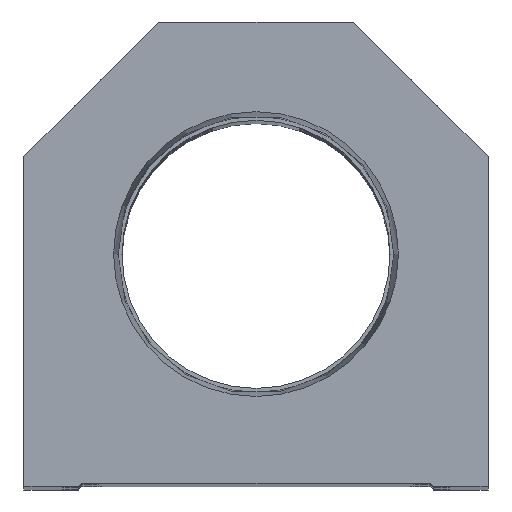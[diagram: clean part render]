
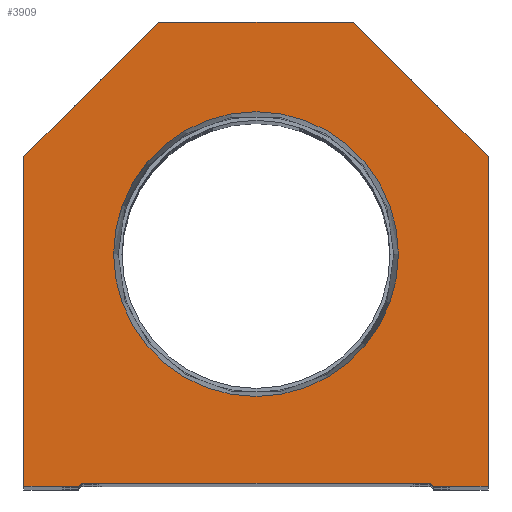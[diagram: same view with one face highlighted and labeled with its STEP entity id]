
A CAD part, top view. The second image highlights one B-rep face of the part: STEP entity #3909.
In plain terms, the highlighted planar face has unit normal (0, 0, 1).
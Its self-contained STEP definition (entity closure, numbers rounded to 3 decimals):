
#26 = ORIENTED_EDGE ( 'NONE', *, *, #944, .T. ) ;
#73 = VECTOR ( 'NONE', #3652, 1000. ) ;
#384 = VERTEX_POINT ( 'NONE', #3242 ) ;
#486 = CARTESIAN_POINT ( 'NONE',  ( -38.1, 0., 0. ) ) ;
#508 = EDGE_CURVE ( 'NONE', #1856, #20270, #2367, .T. ) ;
#745 = VECTOR ( 'NONE', #8471, 1000. ) ;
#798 = DIRECTION ( 'NONE',  ( 0., 0., 1. ) ) ;
#840 = CARTESIAN_POINT ( 'NONE',  ( 28.6, 0., 0. ) ) ;
#914 = EDGE_CURVE ( 'NONE', #1189, #6554, #20886, .T. ) ;
#944 = EDGE_CURVE ( 'NONE', #20270, #10354, #19498, .T. ) ;
#1056 = VECTOR ( 'NONE', #3979, 1000. ) ;
#1160 = DIRECTION ( 'NONE',  ( 0.707, -0.707, 0. ) ) ;
#1189 = VERTEX_POINT ( 'NONE', #11328 ) ;
#1734 = CARTESIAN_POINT ( 'NONE',  ( 38.1, 0., 0. ) ) ;
#1849 = ORIENTED_EDGE ( 'NONE', *, *, #14693, .T. ) ;
#1856 = VERTEX_POINT ( 'NONE', #5715 ) ;
#2309 = ORIENTED_EDGE ( 'NONE', *, *, #8432, .T. ) ;
#2367 = LINE ( 'NONE', #840, #1056 ) ;
#2647 = EDGE_CURVE ( 'NONE', #12832, #1189, #12008, .T. ) ;
#2666 = ORIENTED_EDGE ( 'NONE', *, *, #914, .T. ) ;
#2811 = CARTESIAN_POINT ( 'NONE',  ( 23.374, 38.1, 0. ) ) ;
#3027 = CIRCLE ( 'NONE', #20395, 23.374 ) ;
#3028 = VECTOR ( 'NONE', #3790, 1000. ) ;
#3153 = ORIENTED_EDGE ( 'NONE', *, *, #6171, .F. ) ;
#3242 = CARTESIAN_POINT ( 'NONE',  ( -16., 76.2, 0. ) ) ;
#3360 = VECTOR ( 'NONE', #1160, 1000. ) ;
#3393 = VERTEX_POINT ( 'NONE', #12829 ) ;
#3612 = DIRECTION ( 'NONE',  ( 1., 0., 0. ) ) ;
#3615 = DIRECTION ( 'NONE',  ( 1., 0., 0. ) ) ;
#3652 = DIRECTION ( 'NONE',  ( 1., 0., 0. ) ) ;
#3741 = PLANE ( 'NONE',  #7345 ) ;
#3749 = LINE ( 'NONE', #6917, #5079 ) ;
#3790 = DIRECTION ( 'NONE',  ( 0.707, 0.707, 0. ) ) ;
#3909 = ADVANCED_FACE ( 'NONE', ( #10098, #13537 ), #3741, .T. ) ;
#3979 = DIRECTION ( 'NONE',  ( 1., 0., 0. ) ) ;
#4340 = CARTESIAN_POINT ( 'NONE',  ( -23.374, 38.1, 0. ) ) ;
#4447 = DIRECTION ( 'NONE',  ( 1., 0., 0. ) ) ;
#5079 = VECTOR ( 'NONE', #10201, 1000. ) ;
#5137 = LINE ( 'NONE', #18138, #73 ) ;
#5204 = ORIENTED_EDGE ( 'NONE', *, *, #2647, .T. ) ;
#5674 = EDGE_CURVE ( 'NONE', #3393, #1856, #20610, .T. ) ;
#5715 = CARTESIAN_POINT ( 'NONE',  ( 29.1, 0., 0. ) ) ;
#5936 = EDGE_CURVE ( 'NONE', #15160, #384, #3749, .T. ) ;
#6171 = EDGE_CURVE ( 'NONE', #20089, #8625, #3027, .T. ) ;
#6508 = EDGE_CURVE ( 'NONE', #8625, #20089, #18028, .T. ) ;
#6554 = VERTEX_POINT ( 'NONE', #16520 ) ;
#6583 = ORIENTED_EDGE ( 'NONE', *, *, #5674, .T. ) ;
#6917 = CARTESIAN_POINT ( 'NONE',  ( 16., 76.2, 0. ) ) ;
#7345 = AXIS2_PLACEMENT_3D ( 'NONE', #20063, #798, #8818 ) ;
#7580 = ORIENTED_EDGE ( 'NONE', *, *, #18107, .T. ) ;
#7862 = EDGE_CURVE ( 'NONE', #384, #12832, #16622, .T. ) ;
#8163 = EDGE_LOOP ( 'NONE', ( #2666, #1849, #7580, #6583, #12906, #26, #2309, #16981, #18175, #5204 ) ) ;
#8432 = EDGE_CURVE ( 'NONE', #10354, #15160, #16243, .T. ) ;
#8471 = DIRECTION ( 'NONE',  ( -0.707, -0.707, 0. ) ) ;
#8547 = ORIENTED_EDGE ( 'NONE', *, *, #6508, .F. ) ;
#8625 = VERTEX_POINT ( 'NONE', #2811 ) ;
#8818 = DIRECTION ( 'NONE',  ( 1., 0., 0. ) ) ;
#9857 = DIRECTION ( 'NONE',  ( 0., 0., 1. ) ) ;
#10098 = FACE_BOUND ( 'NONE', #12004, .T. ) ;
#10201 = DIRECTION ( 'NONE',  ( -1., 0., 0. ) ) ;
#10354 = VERTEX_POINT ( 'NONE', #20919 ) ;
#10726 = CARTESIAN_POINT ( 'NONE',  ( -28.6, 0.5, 0. ) ) ;
#11052 = VECTOR ( 'NONE', #13524, 1000. ) ;
#11314 = VECTOR ( 'NONE', #16094, 1000. ) ;
#11328 = CARTESIAN_POINT ( 'NONE',  ( -38.1, 0., 0. ) ) ;
#11657 = LINE ( 'NONE', #18500, #3028 ) ;
#11802 = CARTESIAN_POINT ( 'NONE',  ( 0., 38.1, 0. ) ) ;
#12004 = EDGE_LOOP ( 'NONE', ( #8547, #3153 ) ) ;
#12008 = LINE ( 'NONE', #486, #11052 ) ;
#12548 = CARTESIAN_POINT ( 'NONE',  ( -28.6, 0., 0. ) ) ;
#12829 = CARTESIAN_POINT ( 'NONE',  ( 28.6, 0.5, 0. ) ) ;
#12832 = VERTEX_POINT ( 'NONE', #16299 ) ;
#12906 = ORIENTED_EDGE ( 'NONE', *, *, #508, .T. ) ;
#13524 = DIRECTION ( 'NONE',  ( 0., -1., 0. ) ) ;
#13537 = FACE_OUTER_BOUND ( 'NONE', #8163, .T. ) ;
#14634 = CARTESIAN_POINT ( 'NONE',  ( 16., 76.2, 0. ) ) ;
#14693 = EDGE_CURVE ( 'NONE', #6554, #15373, #11657, .T. ) ;
#15085 = VECTOR ( 'NONE', #4447, 1000. ) ;
#15160 = VERTEX_POINT ( 'NONE', #14634 ) ;
#15332 = CARTESIAN_POINT ( 'NONE',  ( -38.1, 54.1, 0. ) ) ;
#15373 = VERTEX_POINT ( 'NONE', #10726 ) ;
#16094 = DIRECTION ( 'NONE',  ( 0., 1., 0. ) ) ;
#16243 = LINE ( 'NONE', #21124, #18849 ) ;
#16299 = CARTESIAN_POINT ( 'NONE',  ( -38.1, 54.1, 0. ) ) ;
#16520 = CARTESIAN_POINT ( 'NONE',  ( -29.1, 0., 0. ) ) ;
#16622 = LINE ( 'NONE', #15332, #745 ) ;
#16632 = CARTESIAN_POINT ( 'NONE',  ( 0., 38.1, 0. ) ) ;
#16678 = AXIS2_PLACEMENT_3D ( 'NONE', #11802, #9857, #3612 ) ;
#16981 = ORIENTED_EDGE ( 'NONE', *, *, #5936, .T. ) ;
#17414 = CARTESIAN_POINT ( 'NONE',  ( 14.55, 14.55, 0. ) ) ;
#17718 = DIRECTION ( 'NONE',  ( -0.707, 0.707, 0. ) ) ;
#18028 = CIRCLE ( 'NONE', #16678, 23.374 ) ;
#18107 = EDGE_CURVE ( 'NONE', #15373, #3393, #5137, .T. ) ;
#18138 = CARTESIAN_POINT ( 'NONE',  ( -28.6, 0.5, 0. ) ) ;
#18175 = ORIENTED_EDGE ( 'NONE', *, *, #7862, .T. ) ;
#18500 = CARTESIAN_POINT ( 'NONE',  ( -14.55, 14.55, 0. ) ) ;
#18849 = VECTOR ( 'NONE', #17718, 1000. ) ;
#19498 = LINE ( 'NONE', #20987, #11314 ) ;
#19836 = DIRECTION ( 'NONE',  ( 0., 0., 1. ) ) ;
#20063 = CARTESIAN_POINT ( 'NONE',  ( 0., 0., 0. ) ) ;
#20089 = VERTEX_POINT ( 'NONE', #4340 ) ;
#20270 = VERTEX_POINT ( 'NONE', #1734 ) ;
#20395 = AXIS2_PLACEMENT_3D ( 'NONE', #16632, #19836, #3615 ) ;
#20610 = LINE ( 'NONE', #17414, #3360 ) ;
#20886 = LINE ( 'NONE', #12548, #15085 ) ;
#20919 = CARTESIAN_POINT ( 'NONE',  ( 38.1, 54.1, 0. ) ) ;
#20987 = CARTESIAN_POINT ( 'NONE',  ( 38.1, 0., 0. ) ) ;
#21124 = CARTESIAN_POINT ( 'NONE',  ( 38.1, 54.1, 0. ) ) ;
